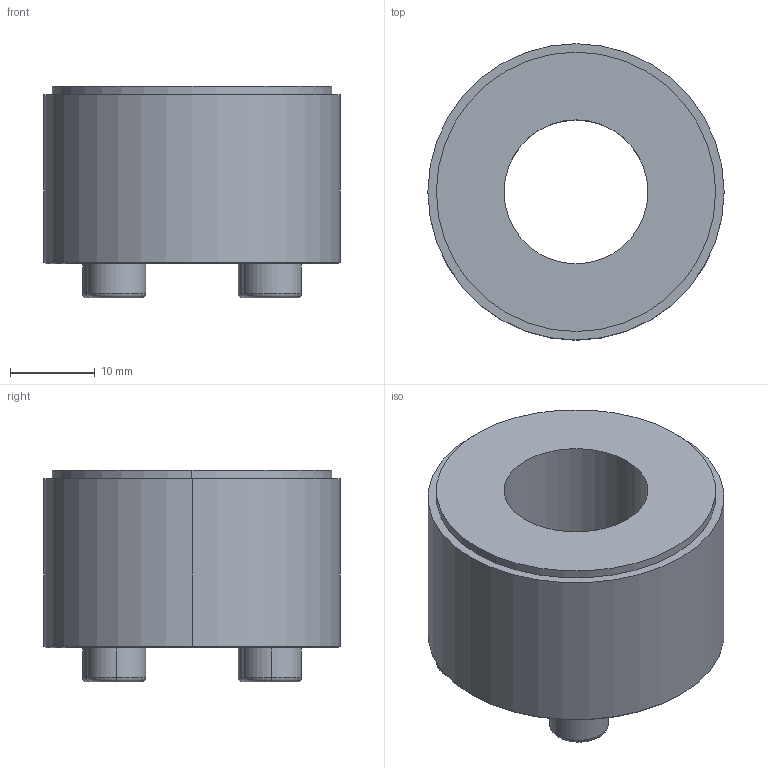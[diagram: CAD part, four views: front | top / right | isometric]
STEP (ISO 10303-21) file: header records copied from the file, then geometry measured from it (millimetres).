
FILE_DESCRIPTION (( 'STEP AP203' ), '1' );
FILE_NAME ('PL-B 17-35.STEP', '2021-10-22T07:45:45', ( '' ), ( '' ), 'SwSTEP 2.0', 'SolidWorks 2018', '' );
FILE_SCHEMA (( 'CONFIG_CONTROL_DESIGN' ));
Length unit declared in the file: millimetre
Products named in the file (1): PL-B 17-35
Bounding box: 35 x 35 x 25 mm (x, y, z)
Volume: 15876.5 mm3; surface area: 5291.1 mm2
Topology: 1 solids, 1 shells, 61 faces, 138 edges, 88 vertices
Faces by surface type: plane 35, cylinder 14, torus 8, cone 4
Entity records: 1785 total; most frequent: DIRECTION 310, CARTESIAN_POINT 288, ORIENTED_EDGE 276, EDGE_CURVE 138, AXIS2_PLACEMENT_3D 110, LINE 90, VECTOR 90, VERTEX_POINT 88
